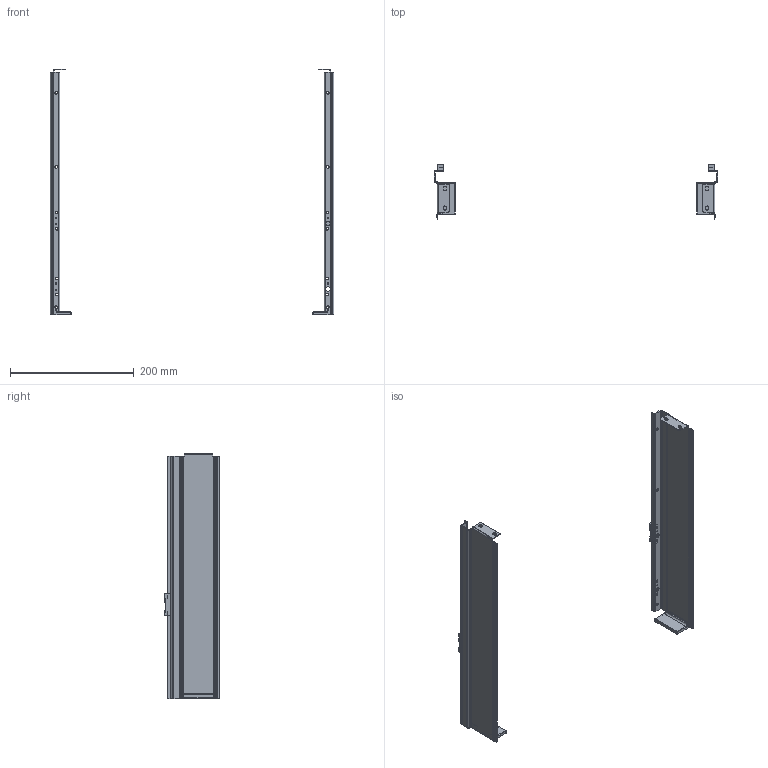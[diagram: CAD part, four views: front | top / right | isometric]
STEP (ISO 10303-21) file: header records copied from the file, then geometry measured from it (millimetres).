
FILE_DESCRIPTION(/* description */ (''),/* implementation_level */ '2;1');
FILE_NAME(/* name */ 'C:\Users\dmitruk\Documents\WORK\\X2\041D0410041F042004100412041B042F042E042904180415\X0\\ULTRA SLIM\\X2\0411043E043A043E04320438043D043A0438\X0\ Q-Type\Боковинки Q-Type-400 низкий.stp',/* time_stamp */ '2022-07-28T10:09:03+03:00',/* author */ ('dmitruk'),/* organization */ (''),/* preprocessor_version */ 'ST-DEVELOPER v16.5',/* originating_system */ 'Autodesk Inventor 2017',/* authorisation */ '');
FILE_SCHEMA (('AUTOMOTIVE_DESIGN { 1 0 10303 214 3 1 1 }'));
Length unit declared in the file: millimetre
Products named in the file (3): Боковинки Q-Type; Боковина USLIM; Боковина USLIM L
Assembly tree (2 placements, depth 2):
  Боковинки Q-Type
    Боковина USLIM
    Боковина USLIM L
Bounding box: 459.6 x 88.4 x 398 mm (x, y, z)
Volume: 129925.9 mm3; surface area: 185138.4 mm2
Topology: 8 solids, 8 shells, 472 faces, 1304 edges, 852 vertices
Faces by surface type: plane 206, cylinder 194, torus 36, bspline 28, sphere 8
Full cylindrical faces by diameter (mm): 2 x6, 4.2 x18, 6 x2, 7 x2, 8 x4
Entity records: 15907 total; most frequent: CARTESIAN_POINT 3101, DIRECTION 2654, ORIENTED_EDGE 2500, EDGE_CURVE 1250, AXIS2_PLACEMENT_3D 963, VERTEX_POINT 830, LINE 728, VECTOR 728
